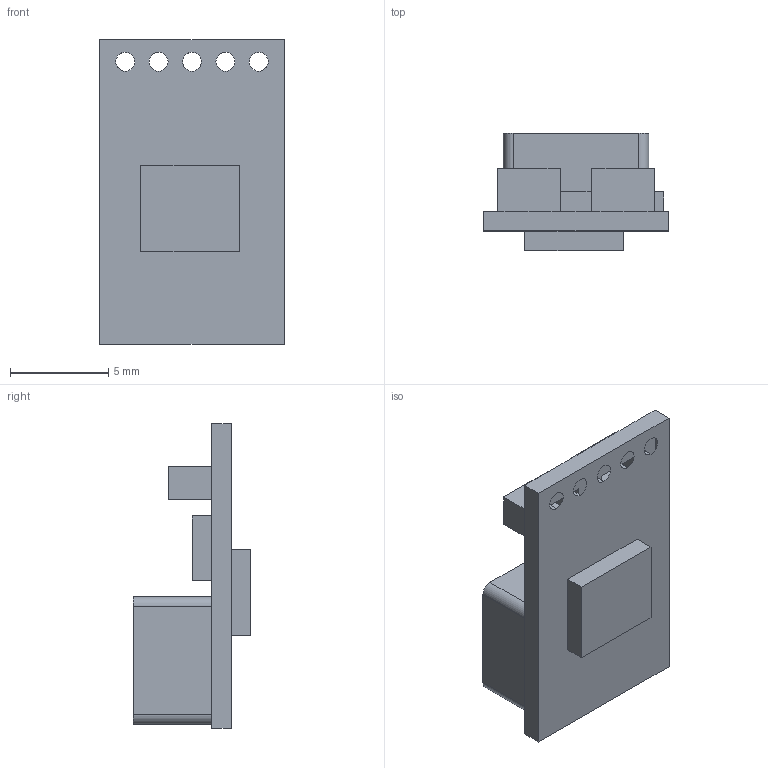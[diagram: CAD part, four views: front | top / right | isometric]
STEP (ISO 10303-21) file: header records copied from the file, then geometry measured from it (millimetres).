
FILE_DESCRIPTION(('FreeCAD Model'),'2;1');
FILE_NAME('Open CASCADE Shape Model','2024-03-23T23:02:14',( 'kicad StepUp'),('ksu MCAD'),'Open CASCADE STEP processor 7.6', 'FreeCAD','Unknown');
FILE_SCHEMA(('AUTOMOTIVE_DESIGN { 1 2 10303 214 0 1 1 1 }'));
Length unit declared in the file: millimetre
Products named in the file (46): Unnamed2; TSR03-12S3P3.0.106; TSR03-12S3P3.0.107; TSR03-12S3P3.0.108; TSR03-12S3P3.0.109; TSR03-12S3P3.0.110; TSR03-12S3P3.0.111; TSR03-12S3P3.0.112; TSR03-12S3P3.0.113; TSR03-12S3P3.0.114; TSR03-12S3P3.0.115; TSR03-12S3P3.0.116; TSR03-12S3P3.0.117; TSR03-12S3P3.0.118; TSR03-12S3P3.0.119; TSR03-12S3P3.0.120; TSR03-12S3P3.0.121; TSR03-12S3P3.0.122; TSR03-12S3P3.0.123; TSR03-12S3P3.0.124; TSR03-12S3P3.0.125; TSR03-12S3P3.0.126; TSR03-12S3P3.0.127; TSR03-12S3P3.0.128; TSR03-12S3P3.0.129; TSR03-12S3P3.0.130; TSR03-12S3P3.0.131; TSR03-12S3P3.0.132; TSR03-12S3P3.0.133; TSR03-12S3P3.0.134; TSR03-12S3P3.0.135; TSR03-12S3P3.0.136; TSR03-12S3P3.0.137; TSR03-12S3P3.0.138; TSR03-12S3P3.0.139; TSR03-12S3P3.0.0; TSR03-12S3P3.0.1; TSR03-12S3P3.0.2; TSR03-12S3P3.0.3; TSR03-12S3P3.0.4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
Assembly tree (45 placements, depth 2):
  Unnamed2
    TSR03-12S3P3.0.106
    TSR03-12S3P3.0.107
    TSR03-12S3P3.0.108
    TSR03-12S3P3.0.109
    TSR03-12S3P3.0.110
    TSR03-12S3P3.0.111
    TSR03-12S3P3.0.112
    TSR03-12S3P3.0.113
    TSR03-12S3P3.0.114
    TSR03-12S3P3.0.115
    TSR03-12S3P3.0.116
    TSR03-12S3P3.0.117
    TSR03-12S3P3.0.118
    TSR03-12S3P3.0.119
    TSR03-12S3P3.0.120
    TSR03-12S3P3.0.121
    TSR03-12S3P3.0.122
    TSR03-12S3P3.0.123
    TSR03-12S3P3.0.124
    TSR03-12S3P3.0.125
    TSR03-12S3P3.0.126
    TSR03-12S3P3.0.127
    TSR03-12S3P3.0.128
    TSR03-12S3P3.0.129
    TSR03-12S3P3.0.130
    TSR03-12S3P3.0.131
    TSR03-12S3P3.0.132
    TSR03-12S3P3.0.133
    TSR03-12S3P3.0.134
    TSR03-12S3P3.0.135
    TSR03-12S3P3.0.136
    TSR03-12S3P3.0.137
    TSR03-12S3P3.0.138
    TSR03-12S3P3.0.139
    TSR03-12S3P3.0.0
    TSR03-12S3P3.0.1
    TSR03-12S3P3.0.2
    TSR03-12S3P3.0.3
    TSR03-12S3P3.0.4
    TSR03-12S3P3.0.5
    TSR03-12S3P3.0.6
    TSR03-12S3P3.0.7
    TSR03-12S3P3.0.8
    TSR03-12S3P3.0.9
    TSR03-12S3P3.0.10
Bounding box: 9.4 x 6 x 15.5 mm (x, y, z)
Surface area: 535.4 mm2 (no closed solid volume)
Topology: 0 solids, 45 shells, 45 faces, 262 edges, 262 vertices
Faces by surface type: plane 36, cylinder 9
Entity records: 3901 total; most frequent: CARTESIAN_POINT 615, DIRECTION 495, ORIENTED_EDGE 262, EDGE_CURVE 262, VERTEX_POINT 262, LINE 211, VECTOR 211, AXIS2_PLACEMENT_3D 142
